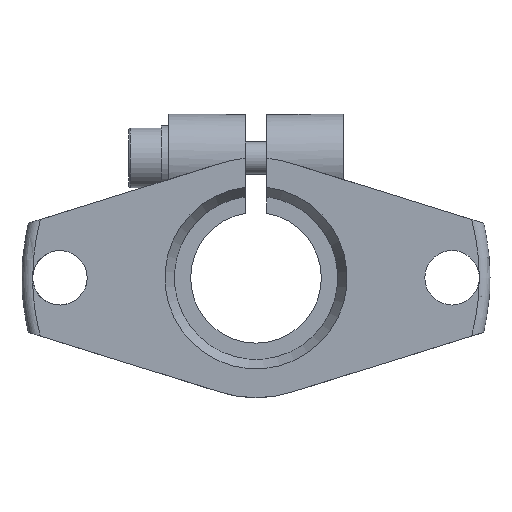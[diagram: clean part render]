
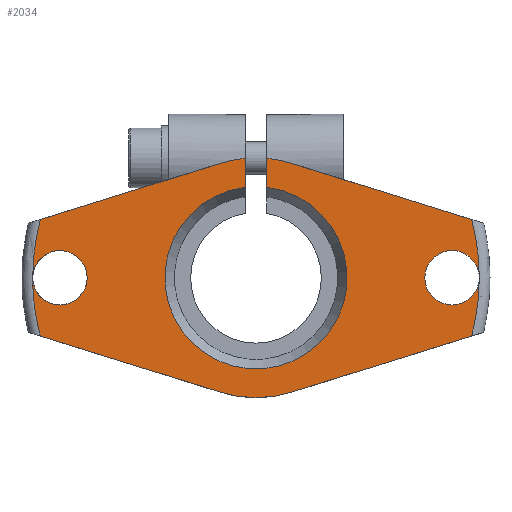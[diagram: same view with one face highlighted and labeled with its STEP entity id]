
A CAD part, left-side view. The second image highlights one B-rep face of the part: STEP entity #2034.
In plain terms, the highlighted planar face has unit normal (-1, 0, 0).
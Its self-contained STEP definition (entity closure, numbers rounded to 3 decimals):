
#481=CARTESIAN_POINT('',(0.0,-19.79,-5.35));
#482=VERTEX_POINT('',#481);
#519=CARTESIAN_POINT('',(0.0,-19.79,5.35));
#520=VERTEX_POINT('',#519);
#546=CARTESIAN_POINT('',(0.0,-20.5,0.));
#547=VERTEX_POINT('',#546);
#548=CARTESIAN_POINT('',(0.0,0.0,0.0));
#549=DIRECTION('',(1.0,0.0,0.0));
#550=DIRECTION('',(0.0,-1.0,0.0));
#551=AXIS2_PLACEMENT_3D('',#548,#549,#550);
#552=CIRCLE('',#551,20.5);
#553=EDGE_CURVE('',#520,#547,#552,.T.);
#555=CARTESIAN_POINT('',(0.0,0.0,0.0));
#556=DIRECTION('',(1.0,0.0,0.0));
#557=DIRECTION('',(0.0,-1.0,0.0));
#558=AXIS2_PLACEMENT_3D('',#555,#556,#557);
#559=CIRCLE('',#558,20.5);
#560=EDGE_CURVE('',#547,#482,#559,.T.);
#603=CARTESIAN_POINT('',(0.0,-3.276,-10.501));
#604=VERTEX_POINT('',#603);
#605=CARTESIAN_POINT('',(0.0,-19.79,-5.35));
#606=DIRECTION('',(0.0,0.955,-0.298));
#607=VECTOR('',#606,17.299);
#608=LINE('',#605,#607);
#609=EDGE_CURVE('',#482,#604,#608,.T.);
#664=CARTESIAN_POINT('',(0.0,19.79,5.35));
#665=VERTEX_POINT('',#664);
#702=CARTESIAN_POINT('',(0.0,19.79,-5.35));
#703=VERTEX_POINT('',#702);
#729=CARTESIAN_POINT('',(0.0,20.5,0.));
#730=VERTEX_POINT('',#729);
#731=CARTESIAN_POINT('',(0.0,0.0,0.0));
#732=DIRECTION('',(1.0,0.0,0.0));
#733=DIRECTION('',(0.0,1.0,0.0));
#734=AXIS2_PLACEMENT_3D('',#731,#732,#733);
#735=CIRCLE('',#734,20.5);
#736=EDGE_CURVE('',#703,#730,#735,.T.);
#738=CARTESIAN_POINT('',(0.0,0.0,0.0));
#739=DIRECTION('',(1.0,0.0,0.0));
#740=DIRECTION('',(0.0,1.0,0.0));
#741=AXIS2_PLACEMENT_3D('',#738,#739,#740);
#742=CIRCLE('',#741,20.5);
#743=EDGE_CURVE('',#730,#665,#742,.T.);
#800=CARTESIAN_POINT('',(0.0,3.276,-10.501));
#801=VERTEX_POINT('',#800);
#808=CARTESIAN_POINT('',(0.0,3.276,-10.501));
#809=DIRECTION('',(0.0,0.955,0.298));
#810=VECTOR('',#809,17.299);
#811=LINE('',#808,#810);
#812=EDGE_CURVE('',#801,#703,#811,.T.);
#848=CARTESIAN_POINT('',(0.0,3.276,10.501));
#849=VERTEX_POINT('',#848);
#850=CARTESIAN_POINT('',(0.0,19.79,5.35));
#851=DIRECTION('',(0.0,-0.955,0.298));
#852=VECTOR('',#851,17.299);
#853=LINE('',#850,#852);
#854=EDGE_CURVE('',#665,#849,#853,.T.);
#984=CARTESIAN_POINT('',(0.0,-3.276,10.501));
#985=VERTEX_POINT('',#984);
#992=CARTESIAN_POINT('',(0.0,-3.276,10.501));
#993=DIRECTION('',(0.0,-0.955,-0.298));
#994=VECTOR('',#993,17.299);
#995=LINE('',#992,#994);
#996=EDGE_CURVE('',#985,#520,#995,.T.);
#1219=CARTESIAN_POINT('',(0.0,0.0,0.0));
#1220=DIRECTION('',(1.0,0.0,0.0));
#1221=DIRECTION('',(0.0,1.0,0.0));
#1222=AXIS2_PLACEMENT_3D('',#1219,#1220,#1221);
#1223=CIRCLE('',#1222,11.0);
#1224=EDGE_CURVE('',#604,#801,#1223,.T.);
#1532=CARTESIAN_POINT('',(0.0,1.,10.954));
#1533=VERTEX_POINT('',#1532);
#1540=CARTESIAN_POINT('',(0.0,1.,8.306));
#1541=VERTEX_POINT('',#1540);
#1542=CARTESIAN_POINT('',(0.0,1.,8.306));
#1543=DIRECTION('',(0.0,0.0,1.0));
#1544=VECTOR('',#1543,2.648);
#1545=LINE('',#1542,#1544);
#1546=EDGE_CURVE('',#1541,#1533,#1545,.T.);
#1660=CARTESIAN_POINT('',(0.0,18.0,0.));
#1661=DIRECTION('',(1.0,0.0,0.0));
#1662=DIRECTION('',(0.0,1.0,0.0));
#1663=AXIS2_PLACEMENT_3D('',#1660,#1661,#1662);
#1664=CIRCLE('',#1663,2.5);
#1665=EDGE_CURVE('',#730,#730,#1664,.T.);
#1678=CARTESIAN_POINT('',(0.0,-18.0,0.));
#1679=DIRECTION('',(1.0,0.0,0.0));
#1680=DIRECTION('',(0.0,1.0,0.0));
#1681=AXIS2_PLACEMENT_3D('',#1678,#1679,#1680);
#1682=CIRCLE('',#1681,2.5);
#1683=EDGE_CURVE('',#547,#547,#1682,.T.);
#1804=CARTESIAN_POINT('',(0.0,-1.,8.306));
#1805=VERTEX_POINT('',#1804);
#1806=CARTESIAN_POINT('',(0.0,0.0,0.0));
#1807=DIRECTION('',(-1.0,0.0,0.0));
#1808=DIRECTION('',(0.0,0.0,-1.0));
#1809=AXIS2_PLACEMENT_3D('',#1806,#1807,#1808);
#1810=CIRCLE('',#1809,8.366);
#1811=EDGE_CURVE('',#1541,#1805,#1810,.T.);
#1883=CARTESIAN_POINT('',(0.0,-1.,10.954));
#1884=VERTEX_POINT('',#1883);
#1885=CARTESIAN_POINT('',(0.0,-1.,10.954));
#1886=DIRECTION('',(0.0,0.0,-1.0));
#1887=VECTOR('',#1886,2.648);
#1888=LINE('',#1885,#1887);
#1889=EDGE_CURVE('',#1884,#1805,#1888,.T.);
#1983=CARTESIAN_POINT('',(0.0,0.0,0.0));
#1984=DIRECTION('',(1.0,0.0,0.0));
#1985=DIRECTION('',(0.0,1.0,0.0));
#1986=AXIS2_PLACEMENT_3D('',#1983,#1984,#1985);
#1987=CIRCLE('',#1986,11.0);
#1988=EDGE_CURVE('',#849,#1533,#1987,.T.);
#1999=CARTESIAN_POINT('',(0.0,0.0,0.0));
#2000=DIRECTION('',(1.0,0.0,0.0));
#2001=DIRECTION('',(0.0,1.0,0.0));
#2002=AXIS2_PLACEMENT_3D('',#1999,#2000,#2001);
#2003=CIRCLE('',#2002,11.0);
#2004=EDGE_CURVE('',#1884,#985,#2003,.T.);
#2011=CARTESIAN_POINT('',(0.0,-11.723,0.0));
#2012=DIRECTION('',(1.0,0.0,0.0));
#2013=DIRECTION('',(0.0,0.0,-1.0));
#2014=AXIS2_PLACEMENT_3D('',#2011,#2012,#2013);
#2015=PLANE('',#2014);
#2016=ORIENTED_EDGE('',*,*,#553,.F.);
#2017=ORIENTED_EDGE('',*,*,#996,.F.);
#2018=ORIENTED_EDGE('',*,*,#2004,.F.);
#2019=ORIENTED_EDGE('',*,*,#1889,.T.);
#2020=ORIENTED_EDGE('',*,*,#1811,.F.);
#2021=ORIENTED_EDGE('',*,*,#1546,.T.);
#2022=ORIENTED_EDGE('',*,*,#1988,.F.);
#2023=ORIENTED_EDGE('',*,*,#854,.F.);
#2024=ORIENTED_EDGE('',*,*,#743,.F.);
#2025=ORIENTED_EDGE('',*,*,#1665,.T.);
#2026=ORIENTED_EDGE('',*,*,#736,.F.);
#2027=ORIENTED_EDGE('',*,*,#812,.F.);
#2028=ORIENTED_EDGE('',*,*,#1224,.F.);
#2029=ORIENTED_EDGE('',*,*,#609,.F.);
#2030=ORIENTED_EDGE('',*,*,#560,.F.);
#2031=ORIENTED_EDGE('',*,*,#1683,.T.);
#2032=EDGE_LOOP('',(#2016,#2017,#2018,#2019,#2020,#2021,#2022,#2023,#2024,#2025,#2026,#2027,#2028,#2029,#2030,#2031));
#2033=FACE_OUTER_BOUND('',#2032,.T.);
#2034=ADVANCED_FACE('',(#2033),#2015,.F.);
